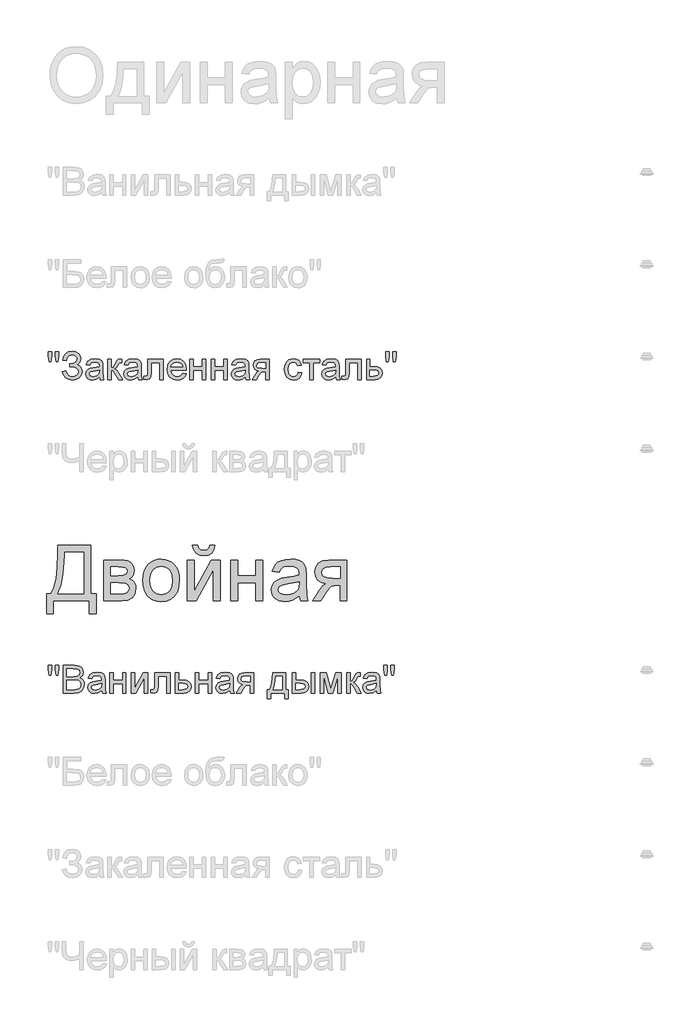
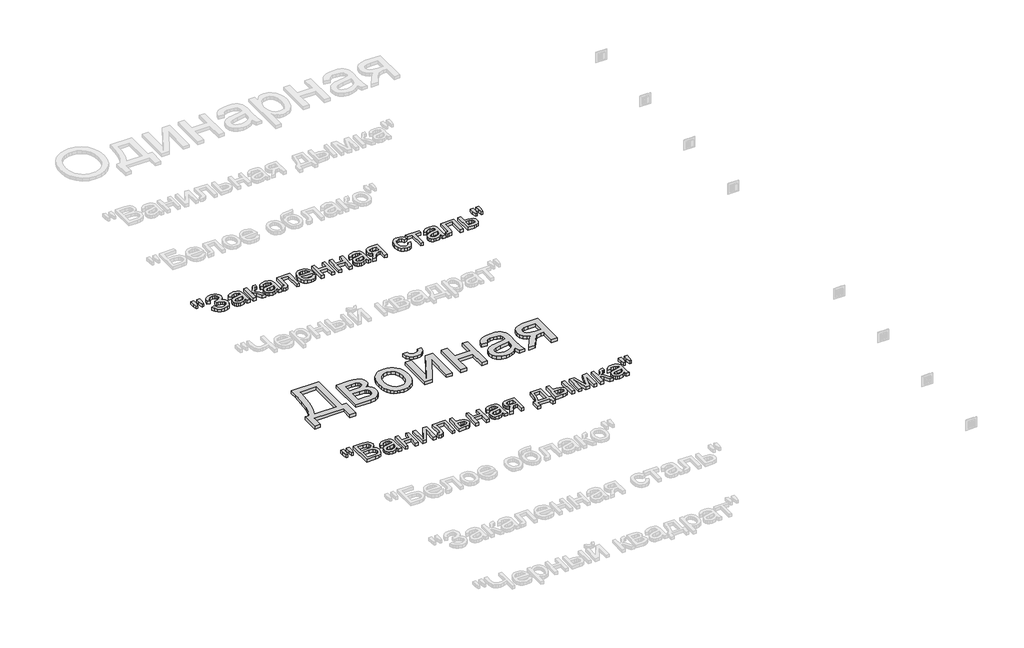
# One storey, part 142 of 168: 3 proxies.
"""IFC4 building model written with IfcOpenShell, lengths in millimetres."""

from ifc_helpers import new_model, si_unit, origin, origin_with_axes, place, context, project, spatial, polyline, outline, extrude, element, save

model = new_model("IFC4")

# Units and contexts
model_context = context("Model", 3, world=origin())
ifc_project = project(units=[si_unit("LENGTHUNIT", "METRE", prefix="MILLI")], contexts=[model_context])

# Site, building, storey
site = spatial("IfcSite", under=ifc_project)
building = spatial("IfcBuilding", under=site)
storey = spatial("IfcBuildingStorey", under=building, Name="Этаж 01", Elevation=0.0)

# Proxies
placement = place(None, origin())
element("IfcBuildingElementProxy", 1, Name="300 мм Arial 2", ObjectType="300 мм Arial 2", at=placement, inside=storey, context=model_context, shape_type="SweptSolid", body=[
    extrude(outline(polyline([(77327.3478389, -23247.0367511), (77506.2856413, -23247.0367511), (77506.2856413, -23510.7345653), (77534.5389786, -23510.7345653), (77534.5389786, -23619.0390246), (77496.8678623, -23619.0390246), (77496.8678623, -23548.4056816), (77303.8033912, -23548.4056816), (77303.8033912, -23619.0390246), (77266.1322749, -23619.0390246), (77266.1322749, -23510.7345653), (77289.6767226, -23510.7345653), (77306.157836, -23476.5629264), (77317.9300598, -23428.4945452), (77324.9933941, -23366.5294217), (77327.3478389, -23290.6675557), (77327.3478389, -23247.0367511)]), holes=[polyline([(77468.614525, -23284.7078674), (77365.0189552, -23284.7078674), (77365.0189552, -23299.8646056), (77357.3670097, -23403.0922935), (77346.0362442, -23462.744359), (77327.3478389, -23510.7345653), (77468.614525, -23510.7345653), (77468.614525, -23284.7078674)])]), origin_with_axes(), (0.0, 0.0, 1.0), 20.0),
    extrude(outline(polyline([(77576.9189844, -23327.0878733), (77659.9131625, -23327.0878733), (77686.5938042, -23328.3478691), (77705.4201653, -23332.1278566), (77719.2709224, -23339.2647673), (77731.0247522, -23350.5955328), (77739.0537767, -23365.3567978), (77741.7301183, -23382.7852073), (77740.1114375, -23396.8291025), (77735.2553951, -23408.9416172), (77727.1435971, -23419.1779337), (77715.7576494, -23427.5932344), (77729.700377, -23435.4199238), (77741.0679307, -23448.0106851), (77748.6279057, -23464.3722368), (77751.1478973, -23483.5112976), (77744.7651447, -23512.2244873), (77729.5900124, -23532.439603), (77705.5673181, -23544.4141619), (77672.6418796, -23548.4056816), (77576.9189844, -23548.4056816), (77576.9189844, -23327.0878733)]), holes=[polyline([(77614.5901007, -23411.847885), (77651.8197586, -23411.847885), (77682.5379052, -23409.9348986), (77697.4739142, -23402.2829531), (77702.41273, -23395.9553828), (77704.0590019, -23388.4505901), (77701.1711283, -23377.2117951), (77692.5075073, -23369.9829139), (77676.8541284, -23366.0649707), (77652.996981, -23364.7589896), (77614.5901007, -23364.7589896), (77614.5901007, -23411.847885)]), polyline([(77614.5901007, -23510.7345653), (77660.7960793, -23510.7345653), (77685.9776019, -23509.033111), (77701.7781336, -23503.9287484), (77710.2578136, -23494.648925), (77713.476781, -23480.4210889), (77711.8672973, -23470.9941127), (77707.0388461, -23462.2845065), (77699.6260239, -23455.4694925), (77690.2634271, -23451.7262932), (77657.1172594, -23449.5190013), (77614.5901007, -23449.5190013), (77614.5901007, -23510.7345653)])]), origin_with_axes(), (0.0, 0.0, 1.0), 20.0),
    extrude(outline(polyline([(77788.8190136, -23437.7467774), (77790.8561602, -23409.0841715), (77796.9675998, -23384.385494), (77807.1533326, -23363.6507451), (77821.4133584, -23346.8799246), (77835.7699533, -23336.160763), (77851.6164702, -23328.504219), (77868.9529092, -23323.9102925), (77887.7792703, -23322.3789837), (77908.5623038, -23324.2436856), (77927.354176, -23329.8377912), (77944.1548868, -23339.1613005), (77958.9644364, -23352.2142135), (77971.0516592, -23368.5550719), (77979.6853898, -23387.7424172), (77984.8656281, -23409.7762495), (77986.5923742, -23434.6565687), (77983.5389537, -23472.7139611), (77974.378692, -23501.6846682), (77959.3783037, -23523.3805088), (77938.8045031, -23539.6133019), (77914.3679415, -23549.7392538), (77887.7792703, -23553.1145711), (77866.6927342, -23551.256767), (77847.7261181, -23545.6833548), (77830.879422, -23536.3943344), (77816.1526459, -23523.3897059), (77804.1941818, -23506.8901984), (77795.6524217, -23487.1165412), (77790.5273657, -23464.0687342), (77788.8190136, -23437.7467774)]), holes=[polyline([(77826.4901299, -23437.673201), (77830.8495316, -23471.7666649), (77843.9277365, -23496.0560737), (77863.6094233, -23510.5966095), (77887.7792703, -23515.4434548), (77911.8387528, -23510.5690184), (77931.4836514, -23495.9457091), (77944.5618563, -23471.3344036), (77948.9212579, -23436.4959786), (77944.5342651, -23403.3957961), (77931.3732868, -23379.4374812), (77911.7007971, -23364.8969453), (77887.7792703, -23360.0501), (77863.6094233, -23364.8785512), (77843.9277365, -23379.3639048), (77830.8495316, -23403.5981312), (77826.4901299, -23437.673201)])]), origin_with_axes(), (0.0, 0.0, 1.0), 20.0),
    extrude(outline(polyline([(78028.9723801, -23327.0878733), (78066.6434964, -23327.0878733), (78066.6434964, -23495.8721327), (78159.2026064, -23327.0878733), (78207.9101825, -23327.0878733), (78207.9101825, -23548.4056816), (78170.2390662, -23548.4056816), (78170.2390662, -23380.6514918), (78078.2685674, -23548.4056816), (78028.9723801, -23548.4056816), (78028.9723801, -23327.0878733)])), origin_with_axes(), (0.0, 0.0, 1.0), 20.0),
    extrude(outline(polyline([(78151.4035081, -23247.0367511), (78179.6568453, -23247.0367511), (78173.5775953, -23271.160613), (78161.3731102, -23288.9385104), (78143.5952127, -23299.8921968), (78120.7957261, -23303.5434256), (78096.0556619, -23299.9197879), (78076.8706159, -23289.048875), (78063.7556227, -23271.2985687), (78057.2257173, -23247.0367511), (78085.4790545, -23247.0367511), (78089.4521801, -23259.4435714), (78096.074056, -23268.2635422), (78105.3814705, -23273.5334518), (78117.4112117, -23275.2900883), (78130.9860574, -23273.5886341), (78140.8085066, -23268.4842714), (78147.4303825, -23259.7194829), (78151.4035081, -23247.0367511)])), origin_with_axes(), (0.0, 0.0, 1.0), 20.0),
    extrude(outline(polyline([(78264.416857, -23327.0878733), (78302.0879733, -23327.0878733), (78302.0879733, -23411.847885), (78400.9746536, -23411.847885), (78400.9746536, -23327.0878733), (78438.6457699, -23327.0878733), (78438.6457699, -23548.4056816), (78400.9746536, -23548.4056816), (78400.9746536, -23449.5190013), (78302.0879733, -23449.5190013), (78302.0879733, -23548.4056816), (78264.416857, -23548.4056816), (78264.416857, -23327.0878733)])), origin_with_axes(), (0.0, 0.0, 1.0), 20.0),
    extrude(outline(polyline([(78636.4191305, -23520.1523443), (78618.4205039, -23535.584994), (78599.8884484, -23545.6833548), (78580.3998997, -23551.256767), (78559.5317935, -23553.1145711), (78528.0502918, -23548.6448049), (78504.8277408, -23535.2355061), (78490.5079342, -23514.8732377), (78485.7346653, -23489.5445623), (78487.5372871, -23473.9279716), (78492.9451524, -23459.7461207), (78501.2868766, -23447.6060149), (78511.8910752, -23438.1146594), (78538.2682142, -23425.7538244), (78570.862559, -23420.0884417), (78609.3798039, -23414.1287533), (78636.1984013, -23407.1389954), (78636.4191305, -23398.7512859), (78633.8255625, -23381.9390788), (78626.0448583, -23370.9394071), (78608.6440399, -23362.7724268), (78584.4006164, -23360.0501), (78561.9598147, -23361.8619189), (78546.2880417, -23367.2973753), (78535.6010697, -23377.3497509), (78528.1146711, -23393.0123268), (78490.4435548, -23388.3034373), (78496.9826573, -23367.7020455), (78506.7407272, -23351.5152378), (78520.6282725, -23339.1360086), (78539.5558012, -23329.9573528), (78562.7047757, -23324.273576), (78589.2566587, -23322.3789837), (78614.7232899, -23324.0528468), (78634.9108143, -23329.074436), (78650.1319319, -23336.625214), (78660.6993422, -23345.8866432), (78667.7074942, -23357.3369703), (78672.2508369, -23371.4544419), (78674.0902468, -23404.4166687), (78674.0902468, -23451.2848348), (78676.0032332, -23516.7310418), (78683.5080259, -23548.4056816), (78645.8369096, -23548.4056816), (78636.4191305, -23520.1523443)]), holes=[polyline([(78636.4191305, -23444.8101117), (78575.6450249, -23456.3616064), (78543.2346211, -23462.4684475), (78528.5561295, -23472.4012614), (78523.4057816, -23486.895812), (78526.2108818, -23498.0978187), (78534.6261825, -23507.2764745), (78548.4677425, -23513.4017097), (78567.551621, -23515.4434548), (78587.7851308, -23513.1901776), (78605.6641957, -23506.4303459), (78620.1587463, -23496.4699409), (78630.238713, -23484.6149436), (78634.7084792, -23472.4012614), (78636.1984013, -23455.4786896), (78636.4191305, -23444.8101117)])]), origin_with_axes(), (0.0, 0.0, 1.0), 20.0),
    extrude(outline(polyline([(78895.4080551, -23327.0878733), (78895.4080551, -23548.4056816), (78857.7369388, -23548.4056816), (78857.7369388, -23463.6456699), (78837.2091235, -23463.6456699), (78809.2500919, -23468.4281358), (78798.0848733, -23478.8575904), (78782.9833174, -23500.5810222), (78752.9641466, -23548.4056816), (78709.4069184, -23548.4056816), (78747.2251875, -23487.9258816), (78763.9270301, -23466.2208438), (78779.3044975, -23456.5823356), (78753.5527578, -23448.6912668), (78735.4529636, -23433.7000755), (78724.7475976, -23413.7608713), (78721.1791422, -23391.025764), (78726.0535786, -23365.2372362), (78740.676888, -23344.8197854), (78764.5340353, -23331.5208513), (78797.109986, -23327.0878733), (78895.4080551, -23327.0878733)]), holes=[polyline([(78857.7369388, -23364.7589896), (78808.0728695, -23364.7589896), (78782.4222974, -23366.9386904), (78767.8633674, -23373.4777929), (78761.1035357, -23382.9415572), (78758.8502585, -23393.8952436), (78762.1703935, -23408.2518385), (78772.1307985, -23418.2122435), (78790.5340954, -23424.033976), (78819.1829057, -23425.9745536), (78857.7369388, -23425.9745536), (78857.7369388, -23364.7589896)])]), origin_with_axes(), (0.0, 0.0, 1.0), 20.0),
])
element("IfcBuildingElementProxy", 2, Name="150", ObjectType="150", at=placement, inside=storey, context=model_context, shape_type="SweptSolid", body=[
    extrude(outline(polyline([(77280.1485789, -22251.873446), (77275.550054, -22222.7739802), (77275.550054, -22197.7212163), (77294.3856121, -22197.7212163), (77294.3856121, -22222.7739802), (77290.2653338, -22251.873446), (77280.1485789, -22251.873446)])), origin_with_axes(), (0.0, 0.0, 1.0), 20.0),
    extrude(outline(polyline([(77317.7093306, -22251.873446), (77313.2211703, -22222.7739802), (77313.2211703, -22197.7212163), (77332.0567284, -22197.7212163), (77332.0567284, -22222.7739802), (77327.6421445, -22251.873446), (77317.7093306, -22251.873446)])), origin_with_axes(), (0.0, 0.0, 1.0), 20.0),
    extrude(outline(polyline([(77350.8922866, -22306.0256757), (77369.7278447, -22301.3167862), (77381.2977335, -22321.7158428), (77392.2284273, -22329.3723868), (77406.2217387, -22331.9245682), (77420.398991, -22330.0069833), (77431.2193202, -22324.2542286), (77438.0757209, -22315.7883442), (77440.3611878, -22305.7313701), (77437.8641888, -22295.1961495), (77430.3731916, -22287.0613589), (77418.5779752, -22281.8604272), (77403.1683181, -22280.1267833), (77393.2722924, -22280.1267833), (77393.2722924, -22261.2912251), (77414.591054, -22259.7645148), (77427.6324708, -22251.9654165), (77433.2978535, -22237.7099892), (77431.4124583, -22228.8394346), (77425.7562726, -22221.2104817), (77416.8811195, -22215.9543677), (77405.3388219, -22214.2023297), (77386.1169876, -22219.591801), (77375.117316, -22233.8840165), (77372.0822895, -22247.1645565), (77353.2467313, -22242.455667), (77359.0983543, -22221.8542752), (77369.7002536, -22207.1389954), (77385.0524291, -22198.3098275), (77405.1548809, -22195.3667716), (77424.5468605, -22198.4247907), (77439.4598769, -22207.5988479), (77448.965028, -22220.8655924), (77452.1334117, -22236.201673), (77447.2037929, -22254.8440931), (77432.4149367, -22268.7592296), (77442.8903765, -22273.5830823), (77451.5080123, -22281.7270699), (77457.2745625, -22292.4922168), (77459.196746, -22305.1795471), (77455.508729, -22323.0172254), (77444.444678, -22337.6819214), (77427.2921799, -22347.4905751), (77405.3388219, -22350.7601263), (77386.2365493, -22347.9642232), (77370.7947025, -22339.5765137), (77359.0132816, -22325.5969979), (77350.8922866, -22306.0256757)])), origin_with_axes(), (0.0, 0.0, 1.0), 20.0),
    extrude(outline(polyline([(77553.3745367, -22334.279013), (77535.1091957, -22347.0445182), (77514.9308682, -22350.7601263), (77499.1901174, -22348.5252432), (77487.5788419, -22341.8205939), (77480.4189386, -22331.6394596), (77478.0323041, -22318.975122), (77481.6375477, -22304.0759012), (77491.110509, -22293.2601705), (77504.2990786, -22287.079753), (77520.596251, -22284.2470616), (77553.2641721, -22277.7723385), (77553.3745367, -22273.5784838), (77552.0777527, -22265.1723802), (77548.1874006, -22259.6725443), (77539.4869914, -22255.5890542), (77527.3652797, -22254.2278908), (77508.3089923, -22257.8515285), (77499.222307, -22270.7090042), (77480.3867489, -22268.3545594), (77488.5353351, -22249.9604597), (77504.9428721, -22239.1815172), (77529.7933008, -22235.3923327), (77552.6203786, -22238.7400588), (77565.5146426, -22247.1461624), (77571.2903899, -22259.9300617), (77572.2100949, -22276.4111751), (77572.2100949, -22299.8452582), (77573.1665881, -22332.5683617), (77576.9189844, -22348.4056816), (77558.0834263, -22348.4056816), (77553.3745367, -22334.279013)]), holes=[polyline([(77553.3745367, -22296.6078966), (77522.9874839, -22302.383644), (77506.782282, -22305.4370645), (77499.4430362, -22310.4034715), (77496.8678623, -22317.6507468), (77502.4780627, -22327.841078), (77518.940782, -22331.9245682), (77537.9970693, -22327.4180137), (77550.284328, -22316.5103126), (77553.2641721, -22301.9421856), (77553.3745367, -22296.6078966)])]), origin_with_axes(), (0.0, 0.0, 1.0), 20.0),
    extrude(outline(polyline([(77598.1089873, -22237.7467774), (77616.9445455, -22237.7467774), (77616.9445455, -22284.8356728), (77629.5628979, -22281.4511584), (77639.900382, -22261.7326835), (77648.4904266, -22244.7181412), (77656.0687957, -22239.1815172), (77669.8459764, -22237.7467774), (77673.4512199, -22237.7467774), (77673.4512199, -22256.6927002), (77668.3744484, -22256.5823356), (77659.1773985, -22258.5688983), (77652.7026754, -22270.9665216), (77645.1059122, -22284.3758203), (77634.4557285, -22290.9425139), (77646.3383169, -22298.2725627), (77658.0001762, -22313.7144094), (77678.1601095, -22348.4056816), (77656.7493774, -22348.4056816), (77636.9941142, -22314.4501734), (77627.0613004, -22300.0843815), (77616.9445455, -22296.6078966), (77616.9445455, -22348.4056816), (77598.1089873, -22348.4056816), (77598.1089873, -22237.7467774)])), origin_with_axes(), (0.0, 0.0, 1.0), 20.0),
    extrude(outline(polyline([(77760.5656764, -22334.279013), (77742.3003353, -22347.0445182), (77722.1220079, -22350.7601263), (77706.381257, -22348.5252432), (77694.7699816, -22341.8205939), (77687.6100782, -22331.6394596), (77685.2234438, -22318.975122), (77688.8286873, -22304.0759012), (77698.3016487, -22293.2601705), (77711.4902183, -22287.079753), (77727.7873906, -22284.2470616), (77760.4553118, -22277.7723385), (77760.5656764, -22273.5784838), (77759.2688924, -22265.1723802), (77755.3785403, -22259.6725443), (77746.6781311, -22255.5890542), (77734.5564193, -22254.2278908), (77715.500132, -22257.8515285), (77706.4134467, -22270.7090042), (77687.5778886, -22268.3545594), (77695.7264748, -22249.9604597), (77712.1340117, -22239.1815172), (77736.9844405, -22235.3923327), (77759.8115183, -22238.7400588), (77772.7057822, -22247.1461624), (77778.4815296, -22259.9300617), (77779.4012346, -22276.4111751), (77779.4012346, -22299.8452582), (77780.3577277, -22332.5683617), (77784.1101241, -22348.4056816), (77765.2745659, -22348.4056816), (77760.5656764, -22334.279013)]), holes=[polyline([(77760.5656764, -22296.6078966), (77730.1786236, -22302.383644), (77713.9734217, -22305.4370645), (77706.6341759, -22310.4034715), (77704.0590019, -22317.6507468), (77709.6692024, -22327.841078), (77726.1319217, -22331.9245682), (77745.188209, -22327.4180137), (77757.4754676, -22316.5103126), (77760.4553118, -22301.9421856), (77760.5656764, -22296.6078966)])]), origin_with_axes(), (0.0, 0.0, 1.0), 20.0),
    extrude(outline(polyline([(77814.7179061, -22237.7467774), (77899.4779178, -22237.7467774), (77899.4779178, -22348.295317), (77880.6423596, -22348.295317), (77880.6423596, -22256.5823356), (77833.5534643, -22256.5823356), (77833.5534643, -22309.3734019), (77832.2842714, -22333.72719), (77825.3129076, -22344.0094917), (77808.8317942, -22348.4056816), (77793.5279032, -22347.4491884), (77793.5279032, -22329.5701234), (77801.9524009, -22329.5701234), (77810.4688691, -22328.4112951), (77813.8717775, -22324.7324752), (77814.7179061, -22308.3065441), (77814.7179061, -22237.7467774)])), origin_with_axes(), (0.0, 0.0, 1.0), 20.0),
    extrude(outline(polyline([(78005.2072032, -22315.4434548), (78023.6748794, -22317.7978996), (78017.0208138, -22331.713036), (78006.4028197, -22342.1148995), (77992.0600204, -22348.5988196), (77974.2315392, -22350.7601263), (77952.1310283, -22347.0307226), (77935.1256831, -22335.8425114), (77924.2823613, -22317.9220597), (77920.6679207, -22293.9959345), (77924.3191495, -22269.2650674), (77935.2728359, -22250.7698), (77952.0482549, -22239.2366995), (77973.1646814, -22235.3923327), (77993.6235189, -22239.2275025), (78009.971275, -22250.7330118), (78020.6904367, -22269.191491), (78024.2634906, -22293.8855699), (78024.153126, -22298.9623414), (77939.5034789, -22298.9623414), (77942.763833, -22313.0614189), (77950.3376036, -22323.4264941), (77961.2682974, -22329.8000497), (77974.5994212, -22331.9245682), (77993.0670974, -22327.9882308), (78005.2072032, -22315.4434548)]), holes=[polyline([(77939.5034789, -22280.1267833), (78005.4279324, -22280.1267833), (78002.8803496, -22270.1755753), (77997.8863515, -22263.0570587), (77986.9050739, -22256.4351828), (77973.091105, -22254.2278908), (77960.3945777, -22255.9891259), (77949.8961452, -22261.272831), (77942.5982861, -22269.5087892), (77939.5034789, -22280.1267833)])]), origin_with_axes(), (0.0, 0.0, 1.0), 20.0),
    extrude(outline(polyline([(78043.0990487, -22237.7467774), (78061.9346069, -22237.7467774), (78061.9346069, -22280.1267833), (78111.377947, -22280.1267833), (78111.377947, -22237.7467774), (78130.2135052, -22237.7467774), (78130.2135052, -22348.4056816), (78111.377947, -22348.4056816), (78111.377947, -22298.9623414), (78061.9346069, -22298.9623414), (78061.9346069, -22348.4056816), (78043.0990487, -22348.4056816), (78043.0990487, -22237.7467774)])), origin_with_axes(), (0.0, 0.0, 1.0), 20.0),
    extrude(outline(polyline([(78158.4668424, -22237.7467774), (78177.3024005, -22237.7467774), (78177.3024005, -22280.1267833), (78226.7457407, -22280.1267833), (78226.7457407, -22237.7467774), (78245.5812988, -22237.7467774), (78245.5812988, -22348.4056816), (78226.7457407, -22348.4056816), (78226.7457407, -22298.9623414), (78177.3024005, -22298.9623414), (78177.3024005, -22348.4056816), (78158.4668424, -22348.4056816), (78158.4668424, -22237.7467774)])), origin_with_axes(), (0.0, 0.0, 1.0), 20.0),
    extrude(outline(polyline([(78344.4679792, -22334.279013), (78326.2026381, -22347.0445182), (78306.0243107, -22350.7601263), (78290.2835598, -22348.5252432), (78278.6722843, -22341.8205939), (78271.512381, -22331.6394596), (78269.1257465, -22318.975122), (78272.7309901, -22304.0759012), (78282.2039515, -22293.2601705), (78295.392521, -22287.079753), (78311.6896934, -22284.2470616), (78344.3576146, -22277.7723385), (78344.4679792, -22273.5784838), (78343.1711951, -22265.1723802), (78339.280843, -22259.6725443), (78330.5804338, -22255.5890542), (78318.4587221, -22254.2278908), (78299.4024347, -22257.8515285), (78290.3157495, -22270.7090042), (78271.4801913, -22268.3545594), (78279.6287775, -22249.9604597), (78296.0363145, -22239.1815172), (78320.8867433, -22235.3923327), (78343.7138211, -22238.7400588), (78356.608085, -22247.1461624), (78362.3838323, -22259.9300617), (78363.3035373, -22276.4111751), (78363.3035373, -22299.8452582), (78364.2600305, -22332.5683617), (78368.0124268, -22348.4056816), (78349.1768687, -22348.4056816), (78344.4679792, -22334.279013)]), holes=[polyline([(78344.4679792, -22296.6078966), (78314.0809264, -22302.383644), (78297.8757245, -22305.4370645), (78290.5364787, -22310.4034715), (78287.9613047, -22317.6507468), (78293.5715051, -22327.841078), (78310.0342244, -22331.9245682), (78329.0905118, -22327.4180137), (78341.3777704, -22316.5103126), (78344.3576146, -22301.9421856), (78344.4679792, -22296.6078966)])]), origin_with_axes(), (0.0, 0.0, 1.0), 20.0),
    extrude(outline(polyline([(78473.9624415, -22237.7467774), (78473.9624415, -22348.4056816), (78455.1268833, -22348.4056816), (78455.1268833, -22306.0256757), (78444.8629756, -22306.0256757), (78430.8834598, -22308.4169087), (78417.7500726, -22324.4933519), (78402.7404872, -22348.4056816), (78380.9618731, -22348.4056816), (78399.8710076, -22318.1657816), (78408.2219289, -22307.3132627), (78415.9106626, -22302.4940086), (78403.0347928, -22298.5484742), (78393.9848957, -22291.0528785), (78388.6322127, -22281.0832765), (78386.847985, -22269.7157228), (78389.2852032, -22256.8214589), (78396.5968579, -22246.6127335), (78408.5254316, -22239.9632664), (78424.8134069, -22237.7467774), (78473.9624415, -22237.7467774)]), holes=[polyline([(78455.1268833, -22256.5823356), (78430.2948486, -22256.5823356), (78417.4695626, -22257.672186), (78410.1900976, -22260.9417372), (78405.6835431, -22271.1504626), (78407.3436107, -22278.32876), (78412.3238132, -22283.3089625), (78435.8498668, -22287.1901176), (78455.1268833, -22287.1901176), (78455.1268833, -22256.5823356)])]), origin_with_axes(), (0.0, 0.0, 1.0), 20.0),
    extrude(outline(polyline([(78631.710241, -22308.3801205), (78650.5457991, -22310.7345653), (78645.2942837, -22327.4869916), (78635.4258491, -22340.1467308), (78621.8693976, -22348.1067774), (78605.5538311, -22350.7601263), (78585.518058, -22347.0583138), (78569.8508835, -22335.952876), (78559.7387272, -22317.9312568), (78556.3680084, -22293.4808997), (78557.8073467, -22276.7192763), (78562.1253616, -22262.192536), (78569.391031, -22250.4616989), (78579.6733328, -22242.087785), (78591.974387, -22237.0661957), (78605.2963137, -22235.3923327), (78621.2118085, -22237.6915951), (78633.9359271, -22244.5893825), (78643.0639991, -22255.7178129), (78648.1913544, -22270.7090042), (78629.3557962, -22273.063449), (78620.6185988, -22258.9551744), (78605.4434665, -22254.2278908), (78593.271171, -22256.5547444), (78583.6096701, -22263.5353053), (78577.3050924, -22275.5466524), (78575.2035665, -22292.9658649), (78577.2591072, -22310.6196021), (78583.4257291, -22322.672336), (78592.9124861, -22329.6115101), (78604.9284317, -22331.9245682), (78614.6819031, -22330.4806314), (78622.678738, -22326.1488209), (78628.4958721, -22318.8187721), (78631.710241, -22308.3801205)])), origin_with_axes(), (0.0, 0.0, 1.0), 20.0),
    extrude(outline(polyline([(78657.6091334, -22237.7467774), (78747.0780347, -22237.7467774), (78747.0780347, -22256.5823356), (78711.7613631, -22256.5823356), (78711.7613631, -22348.4056816), (78692.925805, -22348.4056816), (78692.925805, -22256.5823356), (78657.6091334, -22256.5823356), (78657.6091334, -22237.7467774)])), origin_with_axes(), (0.0, 0.0, 1.0), 20.0),
    extrude(outline(polyline([(78834.1924911, -22334.279013), (78815.9271501, -22347.0445182), (78795.7488226, -22350.7601263), (78780.0080718, -22348.5252432), (78768.3967963, -22341.8205939), (78761.236893, -22331.6394596), (78758.8502585, -22318.975122), (78762.4555021, -22304.0759012), (78771.9284634, -22293.2601705), (78785.117033, -22287.079753), (78801.4142054, -22284.2470616), (78834.0821265, -22277.7723385), (78834.1924911, -22273.5784838), (78832.8957071, -22265.1723802), (78829.005355, -22259.6725443), (78820.3049458, -22255.5890542), (78808.1832341, -22254.2278908), (78789.1269467, -22257.8515285), (78780.0402614, -22270.7090042), (78761.2047033, -22268.3545594), (78769.3532895, -22249.9604597), (78785.7608265, -22239.1815172), (78810.6112552, -22235.3923327), (78833.438333, -22238.7400588), (78846.332597, -22247.1461624), (78852.1083443, -22259.9300617), (78853.0280493, -22276.4111751), (78853.0280493, -22299.8452582), (78853.9845425, -22332.5683617), (78857.7369388, -22348.4056816), (78838.9013807, -22348.4056816), (78834.1924911, -22334.279013)]), holes=[polyline([(78834.1924911, -22296.6078966), (78803.8054383, -22302.383644), (78787.6002364, -22305.4370645), (78780.2609906, -22310.4034715), (78777.6858167, -22317.6507468), (78783.2960171, -22327.841078), (78799.7587364, -22331.9245682), (78818.8150237, -22327.4180137), (78831.1022824, -22316.5103126), (78834.0821265, -22301.9421856), (78834.1924911, -22296.6078966)])]), origin_with_axes(), (0.0, 0.0, 1.0), 20.0),
    extrude(outline(polyline([(78888.3447208, -22237.7467774), (78973.1047325, -22237.7467774), (78973.1047325, -22348.295317), (78954.2691744, -22348.295317), (78954.2691744, -22256.5823356), (78907.180279, -22256.5823356), (78907.180279, -22309.3734019), (78905.9110861, -22333.72719), (78898.9397223, -22344.0094917), (78882.4586089, -22348.4056816), (78867.1547179, -22347.4491884), (78867.1547179, -22329.5701234), (78875.5792156, -22329.5701234), (78884.0956838, -22328.4112951), (78887.4985922, -22324.7324752), (78888.3447208, -22308.3065441), (78888.3447208, -22237.7467774)])), origin_with_axes(), (0.0, 0.0, 1.0), 20.0),
    extrude(outline(polyline([(79001.3580697, -22237.7467774), (79020.1936279, -22237.7467774), (79020.1936279, -22277.7723385), (79041.8986656, -22277.7723385), (79060.7158297, -22280.1313818), (79074.6401632, -22287.2085117), (79083.2486019, -22298.433511), (79086.1180814, -22313.2361628), (79083.6762647, -22326.7144394), (79076.3508145, -22338.0865916), (79063.6542871, -22345.8259091), (79045.099239, -22348.4056816), (79001.3580697, -22348.4056816), (79001.3580697, -22237.7467774)]), holes=[polyline([(79020.1936279, -22329.5701234), (79037.7783873, -22329.5701234), (79060.4951005, -22325.615392), (79065.5856676, -22320.552416), (79067.2825233, -22313.272951), (79062.260934, -22301.6846682), (79054.1905228, -22297.8770895), (79040.0224674, -22296.6078966), (79020.1936279, -22296.6078966), (79020.1936279, -22329.5701234)])]), origin_with_axes(), (0.0, 0.0, 1.0), 20.0),
    extrude(outline(polyline([(79109.5521645, -22251.873446), (79104.9536396, -22222.7739802), (79104.9536396, -22197.7212163), (79123.7891977, -22197.7212163), (79123.7891977, -22222.7739802), (79119.6689194, -22251.873446), (79109.5521645, -22251.873446)])), origin_with_axes(), (0.0, 0.0, 1.0), 20.0),
    extrude(outline(polyline([(79147.1129162, -22251.873446), (79142.6247559, -22222.7739802), (79142.6247559, -22197.7212163), (79161.460314, -22197.7212163), (79161.460314, -22222.7739802), (79157.0457301, -22251.873446), (79147.1129162, -22251.873446)])), origin_with_axes(), (0.0, 0.0, 1.0), 20.0),
])
element("IfcBuildingElementProxy", 3, Name="150", ObjectType="150", at=placement, inside=storey, context=model_context, shape_type="SweptSolid", body=[
    extrude(outline(polyline([(77280.1485789, -23951.873446), (77275.550054, -23922.7739802), (77275.550054, -23897.7212163), (77294.3856121, -23897.7212163), (77294.3856121, -23922.7739802), (77290.2653338, -23951.873446), (77280.1485789, -23951.873446)])), origin_with_axes(), (0.0, 0.0, 1.0), 20.0),
    extrude(outline(polyline([(77317.7093306, -23951.873446), (77313.2211703, -23922.7739802), (77313.2211703, -23897.7212163), (77332.0567284, -23897.7212163), (77332.0567284, -23922.7739802), (77327.6421445, -23951.873446), (77317.7093306, -23951.873446)])), origin_with_axes(), (0.0, 0.0, 1.0), 20.0),
    extrude(outline(polyline([(77357.9556209, -24048.4056816), (77357.9556209, -23897.7212163), (77415.4555767, -23897.7212163), (77443.6169435, -23902.1541944), (77453.0807078, -23907.7781904), (77460.2452096, -23915.7842223), (77466.2600803, -23935.0612389), (77461.2017028, -23952.6643923), (77445.9162059, -23966.0001146), (77456.5893823, -23971.5735269), (77464.4758526, -23980.0532069), (77469.3456905, -23990.8781346), (77470.9689698, -24003.48729), (77466.5359918, -24023.7391938), (77455.5547142, -24038.160168), (77439.1655713, -24045.8121135), (77415.0141183, -24048.4056816), (77357.9556209, -24048.4056816)]), holes=[polyline([(77376.791179, -23958.9367803), (77411.1881456, -23958.9367803), (77431.2745025, -23957.3180996), (77443.3594261, -23950.3467358), (77447.4245221, -23938.0778712), (77443.6353376, -23925.7906126), (77432.7828187, -23918.5249432), (77408.5761834, -23916.5567745), (77376.791179, -23916.5567745), (77376.791179, -23958.9367803)]), polyline([(77376.791179, -24029.5701234), (77415.4187885, -24029.5701234), (77429.3983043, -24028.8343594), (77441.2257105, -24024.7324752), (77449.061597, -24016.3631598), (77452.1334117, -24003.671231), (77448.5281681, -23989.0295275), (77436.8479148, -23980.2923302), (77413.5793786, -23977.7723385), (77376.791179, -23977.7723385), (77376.791179, -24029.5701234)])]), origin_with_axes(), (0.0, 0.0, 1.0), 20.0),
    extrude(outline(polyline([(77565.1467606, -24034.279013), (77546.8814195, -24047.0445182), (77526.7030921, -24050.7601263), (77510.9623412, -24048.5252432), (77499.3510657, -24041.8205939), (77492.1911624, -24031.6394596), (77489.804528, -24018.975122), (77493.4097715, -24004.0759012), (77502.8827329, -23993.2601705), (77516.0713024, -23987.079753), (77532.3684748, -23984.2470616), (77565.036396, -23977.7723385), (77565.1467606, -23973.5784838), (77563.8499765, -23965.1723802), (77559.9596244, -23959.6725443), (77551.2592153, -23955.5890542), (77539.1375035, -23954.2278908), (77520.0812162, -23957.8515285), (77510.9945309, -23970.7090042), (77492.1589727, -23968.3545594), (77500.3075589, -23949.9604597), (77516.7150959, -23939.1815172), (77541.5655247, -23935.3923327), (77564.3926025, -23938.7400588), (77577.2868664, -23947.1461624), (77583.0626137, -23959.9300617), (77583.9823187, -23976.4111751), (77583.9823187, -23999.8452582), (77584.9388119, -24032.5683617), (77588.6912083, -24048.4056816), (77569.8556501, -24048.4056816), (77565.1467606, -24034.279013)]), holes=[polyline([(77565.1467606, -23996.6078966), (77534.7597078, -24002.383644), (77518.5545059, -24005.4370645), (77511.2152601, -24010.4034715), (77508.6400861, -24017.6507468), (77514.2502865, -24027.841078), (77530.7130058, -24031.9245682), (77549.7692932, -24027.4180137), (77562.0565518, -24016.5103126), (77565.036396, -24001.9421856), (77565.1467606, -23996.6078966)])]), origin_with_axes(), (0.0, 0.0, 1.0), 20.0),
    extrude(outline(polyline([(77609.8812112, -23937.7467774), (77628.7167693, -23937.7467774), (77628.7167693, -23980.1267833), (77678.1601095, -23980.1267833), (77678.1601095, -23937.7467774), (77696.9956676, -23937.7467774), (77696.9956676, -24048.4056816), (77678.1601095, -24048.4056816), (77678.1601095, -23998.9623414), (77628.7167693, -23998.9623414), (77628.7167693, -24048.4056816), (77609.8812112, -24048.4056816), (77609.8812112, -23937.7467774)])), origin_with_axes(), (0.0, 0.0, 1.0), 20.0),
    extrude(outline(polyline([(77725.2490049, -23937.7467774), (77744.084563, -23937.7467774), (77744.084563, -24022.1389071), (77790.364118, -23937.7467774), (77814.7179061, -23937.7467774), (77814.7179061, -24048.4056816), (77795.8823479, -24048.4056816), (77795.8823479, -23964.5285867), (77749.8970985, -24048.4056816), (77725.2490049, -24048.4056816), (77725.2490049, -23937.7467774)])), origin_with_axes(), (0.0, 0.0, 1.0), 20.0),
    extrude(outline(polyline([(77852.3890224, -23937.7467774), (77937.1490341, -23937.7467774), (77937.1490341, -24048.295317), (77918.3134759, -24048.295317), (77918.3134759, -23956.5823356), (77871.2245806, -23956.5823356), (77871.2245806, -24009.3734019), (77869.9553877, -24033.72719), (77862.9840239, -24044.0094917), (77846.5029105, -24048.4056816), (77831.1990195, -24047.4491884), (77831.1990195, -24029.5701234), (77839.6235172, -24029.5701234), (77848.1399854, -24028.4112951), (77851.5428938, -24024.7324752), (77852.3890224, -24008.3065441), (77852.3890224, -23937.7467774)])), origin_with_axes(), (0.0, 0.0, 1.0), 20.0),
    extrude(outline(polyline([(77965.4023713, -23937.7467774), (77984.2379295, -23937.7467774), (77984.2379295, -23977.7723385), (78005.9429672, -23977.7723385), (78024.7601312, -23980.1313818), (78038.6844648, -23987.2085117), (78047.2929034, -23998.433511), (78050.162383, -24013.2361628), (78047.7205663, -24026.7144394), (78040.395116, -24038.0865916), (78027.6985887, -24045.8259091), (78009.1435405, -24048.4056816), (77965.4023713, -24048.4056816), (77965.4023713, -23937.7467774)]), holes=[polyline([(77984.2379295, -24029.5701234), (78001.8226888, -24029.5701234), (78024.539402, -24025.615392), (78029.6299692, -24020.552416), (78031.3268249, -24013.272951), (78026.3052356, -24001.6846682), (78018.2348244, -23997.8770895), (78004.066769, -23996.6078966), (77984.2379295, -23996.6078966), (77984.2379295, -24029.5701234)])]), origin_with_axes(), (0.0, 0.0, 1.0), 20.0),
    extrude(outline(polyline([(78073.7068307, -23937.7467774), (78092.5423889, -23937.7467774), (78092.5423889, -23980.1267833), (78141.985729, -23980.1267833), (78141.985729, -23937.7467774), (78160.8212872, -23937.7467774), (78160.8212872, -24048.4056816), (78141.985729, -24048.4056816), (78141.985729, -23998.9623414), (78092.5423889, -23998.9623414), (78092.5423889, -24048.4056816), (78073.7068307, -24048.4056816), (78073.7068307, -23937.7467774)])), origin_with_axes(), (0.0, 0.0, 1.0), 20.0),
    extrude(outline(polyline([(78259.7079675, -24034.279013), (78241.4426264, -24047.0445182), (78221.264299, -24050.7601263), (78205.5235481, -24048.5252432), (78193.9122726, -24041.8205939), (78186.7523693, -24031.6394596), (78184.3657349, -24018.975122), (78187.9709784, -24004.0759012), (78197.4439398, -23993.2601705), (78210.6325093, -23987.079753), (78226.9296817, -23984.2470616), (78259.5976029, -23977.7723385), (78259.7079675, -23973.5784838), (78258.4111834, -23965.1723802), (78254.5208313, -23959.6725443), (78245.8204221, -23955.5890542), (78233.6987104, -23954.2278908), (78214.6424231, -23957.8515285), (78205.5557378, -23970.7090042), (78186.7201796, -23968.3545594), (78194.8687658, -23949.9604597), (78211.2763028, -23939.1815172), (78236.1267316, -23935.3923327), (78258.9538094, -23938.7400588), (78271.8480733, -23947.1461624), (78277.6238206, -23959.9300617), (78278.5435256, -23976.4111751), (78278.5435256, -23999.8452582), (78279.5000188, -24032.5683617), (78283.2524152, -24048.4056816), (78264.416857, -24048.4056816), (78259.7079675, -24034.279013)]), holes=[polyline([(78259.7079675, -23996.6078966), (78229.3209147, -24002.383644), (78213.1157128, -24005.4370645), (78205.776467, -24010.4034715), (78203.201293, -24017.6507468), (78208.8114934, -24027.841078), (78225.2742127, -24031.9245682), (78244.3305001, -24027.4180137), (78256.6177587, -24016.5103126), (78259.5976029, -24001.9421856), (78259.7079675, -23996.6078966)])]), origin_with_axes(), (0.0, 0.0, 1.0), 20.0),
    extrude(outline(polyline([(78389.2024298, -23937.7467774), (78389.2024298, -24048.4056816), (78370.3668716, -24048.4056816), (78370.3668716, -24006.0256757), (78360.1029639, -24006.0256757), (78346.1234481, -24008.4169087), (78332.9900609, -24024.4933519), (78317.9804755, -24048.4056816), (78296.2018614, -24048.4056816), (78315.1109959, -24018.1657816), (78323.4619172, -24007.3132627), (78331.1506509, -24002.4940086), (78318.2747811, -23998.5484742), (78309.224884, -23991.0528785), (78303.872201, -23981.0832765), (78302.0879733, -23969.7157228), (78304.5251915, -23956.8214589), (78311.8368462, -23946.6127335), (78323.7654199, -23939.9632664), (78340.0533952, -23937.7467774), (78389.2024298, -23937.7467774)]), holes=[polyline([(78370.3668716, -23956.5823356), (78345.5348369, -23956.5823356), (78332.7095509, -23957.672186), (78325.4300859, -23960.9417372), (78320.9235315, -23971.1504626), (78322.583599, -23978.32876), (78327.5638015, -23983.3089625), (78351.0898551, -23987.1901176), (78370.3668716, -23987.1901176), (78370.3668716, -23956.5823356)])]), origin_with_axes(), (0.0, 0.0, 1.0), 20.0),
    extrude(outline(polyline([(78492.7979996, -23937.7467774), (78563.4313427, -23937.7467774), (78563.4313427, -24029.5701234), (78577.5580113, -24029.5701234), (78577.5580113, -24079.0134636), (78558.7224531, -24079.0134636), (78558.7224531, -24048.4056816), (78481.0257758, -24048.4056816), (78481.0257758, -24079.0134636), (78462.1902176, -24079.0134636), (78462.1902176, -24029.5701234), (78473.9624415, -24029.5701234), (78482.5202964, -24014.105284), (78488.5121744, -23993.6464466), (78492.7979996, -23937.7467774)]), holes=[polyline([(78509.279113, -23956.5823356), (78504.864529, -23999.4957703), (78495.1524444, -24029.5701234), (78544.5957845, -24029.5701234), (78544.5957845, -23956.5823356), (78509.279113, -23956.5823356)])]), origin_with_axes(), (0.0, 0.0, 1.0), 20.0),
    extrude(outline(polyline([(78702.3435841, -23937.7467774), (78721.1791422, -23937.7467774), (78721.1791422, -24048.4056816), (78702.3435841, -24048.4056816), (78702.3435841, -23937.7467774)])), origin_with_axes(), (0.0, 0.0, 1.0), 20.0),
    extrude(outline(polyline([(78598.7480142, -23937.7467774), (78617.5835724, -23937.7467774), (78617.5835724, -23977.7723385), (78640.8705027, -23977.7723385), (78660.9982463, -23980.1313818), (78675.9112627, -23987.2085117), (78685.1405023, -23998.433511), (78688.2169154, -24013.2361628), (78685.637143, -24026.7144394), (78677.8978255, -24038.0865916), (78664.4931253, -24045.8259091), (78644.9172046, -24048.4056816), (78598.7480142, -24048.4056816), (78598.7480142, -23937.7467774)]), holes=[polyline([(78617.5835724, -24029.5701234), (78636.9341653, -24029.5701234), (78661.9133528, -24025.615392), (78667.5143562, -24020.552416), (78669.3813573, -24013.272951), (78663.8447333, -24001.6846682), (78654.9649816, -23997.8770895), (78639.3989747, -23996.6078966), (78617.5835724, -23996.6078966), (78617.5835724, -24029.5701234)])]), origin_with_axes(), (0.0, 0.0, 1.0), 20.0),
    extrude(outline(polyline([(78749.4324794, -23937.7467774), (78781.8428832, -23937.7467774), (78806.8220707, -24026.3327619), (78833.7510327, -23937.7467774), (78864.8002731, -23937.7467774), (78864.8002731, -24048.4056816), (78845.964715, -24048.4056816), (78845.964715, -23959.3046623), (78818.8886001, -24048.4056816), (78794.1669301, -24048.4056816), (78768.2680376, -23955.0372312), (78768.2680376, -24048.4056816), (78749.4324794, -24048.4056816), (78749.4324794, -23937.7467774)])), origin_with_axes(), (0.0, 0.0, 1.0), 20.0),
    extrude(outline(polyline([(78893.0536104, -23937.7467774), (78911.8891685, -23937.7467774), (78911.8891685, -23984.8356728), (78924.5075209, -23981.4511584), (78934.845005, -23961.7326835), (78943.4350496, -23944.7181412), (78951.0134187, -23939.1815172), (78964.7905994, -23937.7467774), (78968.395843, -23937.7467774), (78968.395843, -23956.6927002), (78963.3190714, -23956.5823356), (78954.1220216, -23958.5688983), (78947.6472984, -23970.9665216), (78940.0505352, -23984.3758203), (78929.4003515, -23990.9425139), (78941.2829399, -23998.2725627), (78952.9447992, -24013.7144094), (78973.1047325, -24048.4056816), (78951.6940004, -24048.4056816), (78931.9387372, -24014.4501734), (78922.0059234, -24000.0843815), (78911.8891685, -23996.6078966), (78911.8891685, -24048.4056816), (78893.0536104, -24048.4056816), (78893.0536104, -23937.7467774)])), origin_with_axes(), (0.0, 0.0, 1.0), 20.0),
    extrude(outline(polyline([(79055.5102994, -24034.279013), (79037.2449584, -24047.0445182), (79017.0666309, -24050.7601263), (79001.3258801, -24048.5252432), (78989.7146046, -24041.8205939), (78982.5547013, -24031.6394596), (78980.1680668, -24018.975122), (78983.7733104, -24004.0759012), (78993.2462717, -23993.2601705), (79006.4348413, -23987.079753), (79022.7320137, -23984.2470616), (79055.3999348, -23977.7723385), (79055.5102994, -23973.5784838), (79054.2135154, -23965.1723802), (79050.3231633, -23959.6725443), (79041.6227541, -23955.5890542), (79029.5010424, -23954.2278908), (79010.444755, -23957.8515285), (79001.3580697, -23970.7090042), (78982.5225116, -23968.3545594), (78990.6710978, -23949.9604597), (79007.0786348, -23939.1815172), (79031.9290635, -23935.3923327), (79054.7561413, -23938.7400588), (79067.6504053, -23947.1461624), (79073.4261526, -23959.9300617), (79074.3458576, -23976.4111751), (79074.3458576, -23999.8452582), (79075.3023508, -24032.5683617), (79079.0547471, -24048.4056816), (79060.219189, -24048.4056816), (79055.5102994, -24034.279013)]), holes=[polyline([(79055.5102994, -23996.6078966), (79025.1232466, -24002.383644), (79008.9180447, -24005.4370645), (79001.5787989, -24010.4034715), (78999.003625, -24017.6507468), (79004.6138254, -24027.841078), (79021.0765447, -24031.9245682), (79040.132832, -24027.4180137), (79052.4200907, -24016.5103126), (79055.3999348, -24001.9421856), (79055.5102994, -23996.6078966)])]), origin_with_axes(), (0.0, 0.0, 1.0), 20.0),
    extrude(outline(polyline([(79100.1343854, -23951.873446), (79095.5358605, -23922.7739802), (79095.5358605, -23897.7212163), (79114.3714187, -23897.7212163), (79114.3714187, -23922.7739802), (79110.2511403, -23951.873446), (79100.1343854, -23951.873446)])), origin_with_axes(), (0.0, 0.0, 1.0), 20.0),
    extrude(outline(polyline([(79137.6951372, -23951.873446), (79133.2069768, -23922.7739802), (79133.2069768, -23897.7212163), (79152.042535, -23897.7212163), (79152.042535, -23922.7739802), (79147.627951, -23951.873446), (79137.6951372, -23951.873446)])), origin_with_axes(), (0.0, 0.0, 1.0), 20.0),
])

save(model, "model.ifc")
